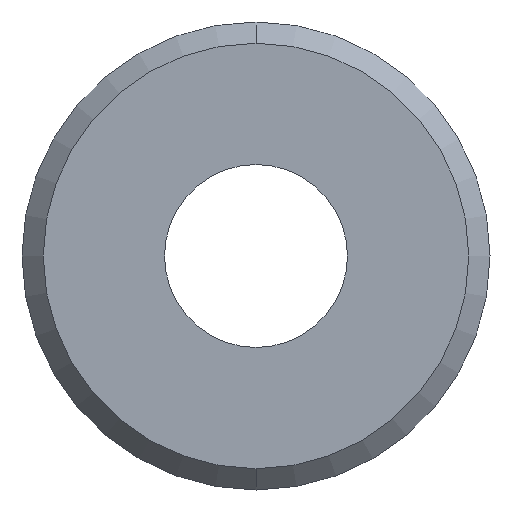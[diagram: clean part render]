
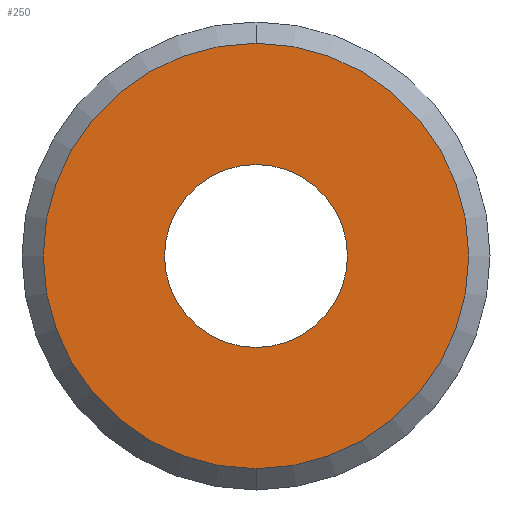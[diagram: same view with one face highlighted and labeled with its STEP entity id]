
A CAD part, front view. The second image highlights one B-rep face of the part: STEP entity #250.
In plain terms, the highlighted planar face has unit normal (0, -1, 0).
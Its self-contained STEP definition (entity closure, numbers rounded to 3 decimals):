
#14 = CARTESIAN_POINT ( 'NONE',  ( 0., 0., 0. ) ) ;
#19 = DIRECTION ( 'NONE',  ( 0., 1., 0. ) ) ;
#21 = VERTEX_POINT ( 'NONE', #337 ) ;
#23 = EDGE_CURVE ( 'NONE', #389, #328, #118, .T. ) ;
#43 = FACE_BOUND ( 'NONE', #158, .T. ) ;
#46 = EDGE_CURVE ( 'NONE', #328, #389, #195, .T. ) ;
#50 = ORIENTED_EDGE ( 'NONE', *, *, #281, .T. ) ;
#51 = CARTESIAN_POINT ( 'NONE',  ( 2.15, 0., 0. ) ) ;
#60 = CARTESIAN_POINT ( 'NONE',  ( 0., 0., -5. ) ) ;
#76 = PLANE ( 'NONE',  #293 ) ;
#88 = AXIS2_PLACEMENT_3D ( 'NONE', #14, #386, #167 ) ;
#89 = EDGE_CURVE ( 'NONE', #296, #21, #156, .T. ) ;
#110 = DIRECTION ( 'NONE',  ( 0., 0., 1. ) ) ;
#111 = DIRECTION ( 'NONE',  ( 0., 0., 1. ) ) ;
#118 = CIRCLE ( 'NONE', #121, 5. ) ;
#121 = AXIS2_PLACEMENT_3D ( 'NONE', #211, #150, #275 ) ;
#137 = CARTESIAN_POINT ( 'NONE',  ( 0., 0., 0. ) ) ;
#150 = DIRECTION ( 'NONE',  ( 0., 1., 0. ) ) ;
#155 = AXIS2_PLACEMENT_3D ( 'NONE', #316, #381, #379 ) ;
#156 = CIRCLE ( 'NONE', #155, 2.15 ) ;
#158 = EDGE_LOOP ( 'NONE', ( #50, #180 ) ) ;
#165 = ORIENTED_EDGE ( 'NONE', *, *, #23, .F. ) ;
#167 = DIRECTION ( 'NONE',  ( 0., 0., 1. ) ) ;
#174 = CARTESIAN_POINT ( 'NONE',  ( 0., 0., 5. ) ) ;
#180 = ORIENTED_EDGE ( 'NONE', *, *, #89, .T. ) ;
#195 = CIRCLE ( 'NONE', #88, 5. ) ;
#211 = CARTESIAN_POINT ( 'NONE',  ( 0., 0., 0. ) ) ;
#218 = EDGE_LOOP ( 'NONE', ( #320, #165 ) ) ;
#250 = ADVANCED_FACE ( 'NONE', ( #376, #43 ), #76, .F. ) ;
#264 = DIRECTION ( 'NONE',  ( 0., 1., 0. ) ) ;
#275 = DIRECTION ( 'NONE',  ( 0., 0., 1. ) ) ;
#281 = EDGE_CURVE ( 'NONE', #21, #296, #365, .T. ) ;
#293 = AXIS2_PLACEMENT_3D ( 'NONE', #51, #264, #111 ) ;
#296 = VERTEX_POINT ( 'NONE', #321 ) ;
#311 = AXIS2_PLACEMENT_3D ( 'NONE', #137, #19, #110 ) ;
#316 = CARTESIAN_POINT ( 'NONE',  ( 0., 0., 0. ) ) ;
#320 = ORIENTED_EDGE ( 'NONE', *, *, #46, .F. ) ;
#321 = CARTESIAN_POINT ( 'NONE',  ( 0., 0., -2.15 ) ) ;
#328 = VERTEX_POINT ( 'NONE', #174 ) ;
#337 = CARTESIAN_POINT ( 'NONE',  ( 0., 0., 2.15 ) ) ;
#365 = CIRCLE ( 'NONE', #311, 2.15 ) ;
#376 = FACE_OUTER_BOUND ( 'NONE', #218, .T. ) ;
#379 = DIRECTION ( 'NONE',  ( 0., 0., 1. ) ) ;
#381 = DIRECTION ( 'NONE',  ( 0., 1., 0. ) ) ;
#386 = DIRECTION ( 'NONE',  ( 0., 1., 0. ) ) ;
#389 = VERTEX_POINT ( 'NONE', #60 ) ;
